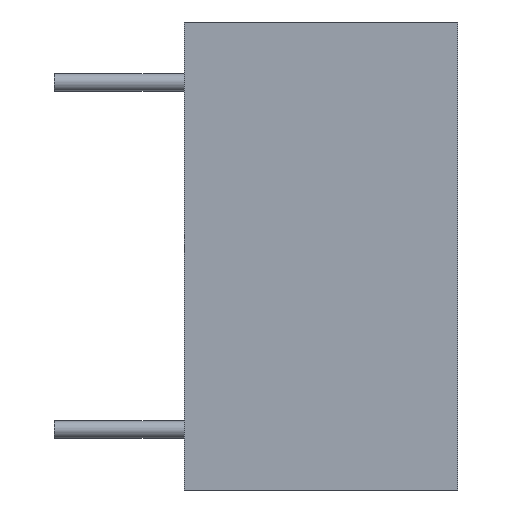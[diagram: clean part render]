
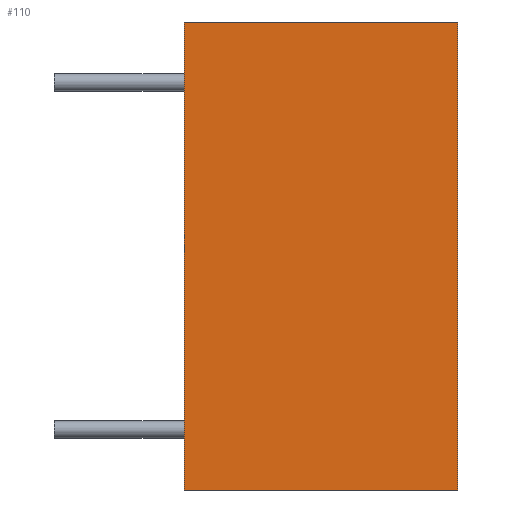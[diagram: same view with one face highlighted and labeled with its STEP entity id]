
A CAD part, left-side view. The second image highlights one B-rep face of the part: STEP entity #110.
In plain terms, the highlighted planar face has unit normal (-1, 0, 0).
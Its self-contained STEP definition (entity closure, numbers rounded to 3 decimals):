
#4 = EDGE_CURVE ( 'NONE', #322, #286, #583, .T. ) ;
#18 = DIRECTION ( 'NONE',  ( 0., 0., -1. ) ) ;
#53 = CARTESIAN_POINT ( 'NONE',  ( -11.9, 8., -6.85 ) ) ;
#57 = EDGE_CURVE ( 'NONE', #213, #322, #405, .T. ) ;
#73 = VERTEX_POINT ( 'NONE', #674 ) ;
#107 = FACE_OUTER_BOUND ( 'NONE', #539, .T. ) ;
#110 = ADVANCED_FACE ( 'NONE', ( #107 ), #311, .F. ) ;
#130 = CARTESIAN_POINT ( 'NONE',  ( -11.9, 0., 6.85 ) ) ;
#161 = DIRECTION ( 'NONE',  ( 1., 0., 0. ) ) ;
#205 = VECTOR ( 'NONE', #476, 1000. ) ;
#213 = VERTEX_POINT ( 'NONE', #53 ) ;
#223 = ORIENTED_EDGE ( 'NONE', *, *, #232, .F. ) ;
#232 = EDGE_CURVE ( 'NONE', #213, #73, #572, .T. ) ;
#235 = ORIENTED_EDGE ( 'NONE', *, *, #57, .T. ) ;
#252 = AXIS2_PLACEMENT_3D ( 'NONE', #529, #161, #18 ) ;
#268 = LINE ( 'NONE', #585, #205 ) ;
#286 = VERTEX_POINT ( 'NONE', #130 ) ;
#296 = CARTESIAN_POINT ( 'NONE',  ( -11.9, 8., -6.85 ) ) ;
#311 = PLANE ( 'NONE',  #252 ) ;
#322 = VERTEX_POINT ( 'NONE', #398 ) ;
#352 = DIRECTION ( 'NONE',  ( 0., -1., 0. ) ) ;
#393 = ORIENTED_EDGE ( 'NONE', *, *, #433, .F. ) ;
#398 = CARTESIAN_POINT ( 'NONE',  ( -11.9, 0., -6.85 ) ) ;
#405 = LINE ( 'NONE', #296, #532 ) ;
#406 = DIRECTION ( 'NONE',  ( 0., 0., 1. ) ) ;
#410 = CARTESIAN_POINT ( 'NONE',  ( -11.9, 0., 6.85 ) ) ;
#433 = EDGE_CURVE ( 'NONE', #73, #286, #268, .T. ) ;
#446 = VECTOR ( 'NONE', #639, 1000. ) ;
#476 = DIRECTION ( 'NONE',  ( 0., -1., 0. ) ) ;
#480 = ORIENTED_EDGE ( 'NONE', *, *, #4, .T. ) ;
#529 = CARTESIAN_POINT ( 'NONE',  ( -11.9, 8., 6.85 ) ) ;
#532 = VECTOR ( 'NONE', #352, 1000. ) ;
#539 = EDGE_LOOP ( 'NONE', ( #480, #393, #223, #235 ) ) ;
#555 = VECTOR ( 'NONE', #406, 1000. ) ;
#572 = LINE ( 'NONE', #679, #555 ) ;
#583 = LINE ( 'NONE', #410, #446 ) ;
#585 = CARTESIAN_POINT ( 'NONE',  ( -11.9, 8., 6.85 ) ) ;
#639 = DIRECTION ( 'NONE',  ( 0., 0., 1. ) ) ;
#674 = CARTESIAN_POINT ( 'NONE',  ( -11.9, 8., 6.85 ) ) ;
#679 = CARTESIAN_POINT ( 'NONE',  ( -11.9, 8., 6.85 ) ) ;
